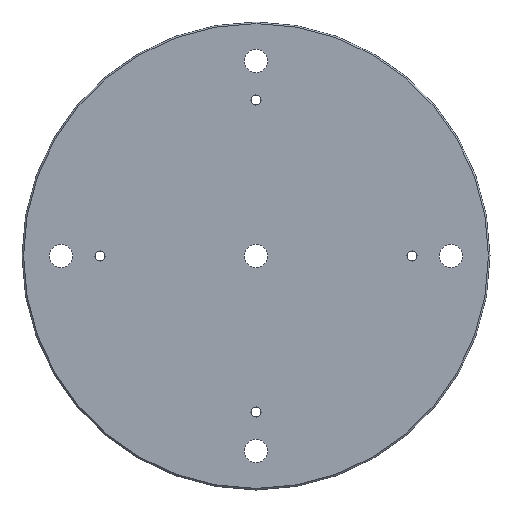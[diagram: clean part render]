
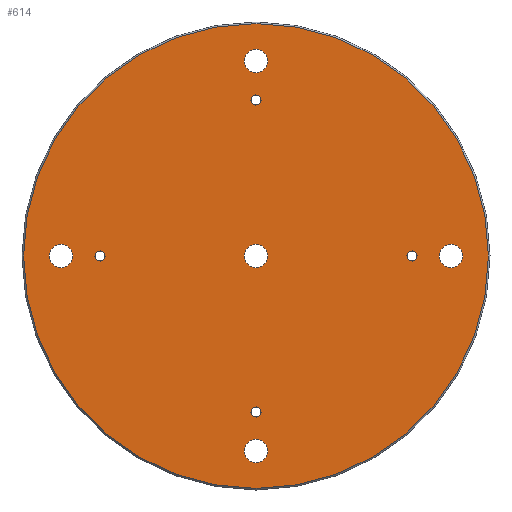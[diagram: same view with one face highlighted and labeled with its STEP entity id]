
A CAD part, front view. The second image highlights one B-rep face of the part: STEP entity #614.
In plain terms, the highlighted planar face has unit normal (0, -1, 0).
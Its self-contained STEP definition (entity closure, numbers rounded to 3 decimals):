
#1=CARTESIAN_POINT('',(0.,-25.,-250.));
#2=DIRECTION('',(0.,-1.,0.));
#3=DIRECTION('',(1.,0.,0.));
#4=AXIS2_PLACEMENT_3D('',#1,#2,#3);
#6=CARTESIAN_POINT('',(0.,-25.,-250.));
#7=DIRECTION('',(0.,-1.,0.));
#8=DIRECTION('',(-1.,0.,0.));
#9=AXIS2_PLACEMENT_3D('',#6,#7,#8);
#11=CARTESIAN_POINT('',(-250.,-25.,0.));
#12=DIRECTION('',(0.,-1.,0.));
#13=DIRECTION('',(0.,0.,-1.));
#14=AXIS2_PLACEMENT_3D('',#11,#12,#13);
#16=CARTESIAN_POINT('',(-250.,-25.,0.));
#17=DIRECTION('',(0.,-1.,0.));
#18=DIRECTION('',(0.,0.,1.));
#19=AXIS2_PLACEMENT_3D('',#16,#17,#18);
#21=CARTESIAN_POINT('',(0.,-25.,250.));
#22=DIRECTION('',(0.,-1.,0.));
#23=DIRECTION('',(-1.,0.,0.));
#24=AXIS2_PLACEMENT_3D('',#21,#22,#23);
#26=CARTESIAN_POINT('',(0.,-25.,250.));
#27=DIRECTION('',(0.,-1.,0.));
#28=DIRECTION('',(1.,0.,0.));
#29=AXIS2_PLACEMENT_3D('',#26,#27,#28);
#31=CARTESIAN_POINT('',(250.,-25.,0.));
#32=DIRECTION('',(0.,-1.,0.));
#33=DIRECTION('',(0.,0.,1.));
#34=AXIS2_PLACEMENT_3D('',#31,#32,#33);
#36=CARTESIAN_POINT('',(250.,-25.,0.));
#37=DIRECTION('',(0.,-1.,0.));
#38=DIRECTION('',(0.,0.,-1.));
#39=AXIS2_PLACEMENT_3D('',#36,#37,#38);
#41=CARTESIAN_POINT('',(0.,-25.,0.));
#42=DIRECTION('',(0.,-1.,0.));
#43=DIRECTION('',(1.,0.,0.));
#44=AXIS2_PLACEMENT_3D('',#41,#42,#43);
#46=CARTESIAN_POINT('',(0.,-25.,0.));
#47=DIRECTION('',(0.,-1.,0.));
#48=DIRECTION('',(-1.,0.,0.));
#49=AXIS2_PLACEMENT_3D('',#46,#47,#48);
#51=CARTESIAN_POINT('',(0.,-25.,0.));
#52=DIRECTION('',(0.,-1.,0.));
#53=DIRECTION('',(1.,0.,0.));
#54=AXIS2_PLACEMENT_3D('',#51,#52,#53);
#56=CARTESIAN_POINT('',(0.,-25.,0.));
#57=DIRECTION('',(0.,-1.,0.));
#58=DIRECTION('',(-1.,0.,0.));
#59=AXIS2_PLACEMENT_3D('',#56,#57,#58);
#61=CARTESIAN_POINT('',(0.,-25.,-200.));
#62=DIRECTION('',(0.,1.,0.));
#63=DIRECTION('',(1.,0.,0.));
#64=AXIS2_PLACEMENT_3D('',#61,#62,#63);
#66=CARTESIAN_POINT('',(0.,-25.,-200.));
#67=DIRECTION('',(0.,1.,0.));
#68=DIRECTION('',(-1.,0.,0.));
#69=AXIS2_PLACEMENT_3D('',#66,#67,#68);
#71=CARTESIAN_POINT('',(-200.,-25.,0.));
#72=DIRECTION('',(0.,1.,0.));
#73=DIRECTION('',(0.,0.,-1.));
#74=AXIS2_PLACEMENT_3D('',#71,#72,#73);
#76=CARTESIAN_POINT('',(-200.,-25.,0.));
#77=DIRECTION('',(0.,1.,0.));
#78=DIRECTION('',(0.,0.,1.));
#79=AXIS2_PLACEMENT_3D('',#76,#77,#78);
#81=CARTESIAN_POINT('',(0.,-25.,200.));
#82=DIRECTION('',(0.,1.,0.));
#83=DIRECTION('',(-1.,0.,0.));
#84=AXIS2_PLACEMENT_3D('',#81,#82,#83);
#86=CARTESIAN_POINT('',(0.,-25.,200.));
#87=DIRECTION('',(0.,1.,0.));
#88=DIRECTION('',(1.,0.,0.));
#89=AXIS2_PLACEMENT_3D('',#86,#87,#88);
#91=CARTESIAN_POINT('',(200.,-25.,0.));
#92=DIRECTION('',(0.,1.,0.));
#93=DIRECTION('',(0.,0.,1.));
#94=AXIS2_PLACEMENT_3D('',#91,#92,#93);
#96=CARTESIAN_POINT('',(200.,-25.,0.));
#97=DIRECTION('',(0.,1.,0.));
#98=DIRECTION('',(0.,0.,-1.));
#99=AXIS2_PLACEMENT_3D('',#96,#97,#98);
#429=CARTESIAN_POINT('',(15.,-25.,-250.));
#430=CARTESIAN_POINT('',(-15.,-25.,-250.));
#431=VERTEX_POINT('',#429);
#432=VERTEX_POINT('',#430);
#437=CARTESIAN_POINT('',(-250.,-25.,-15.));
#438=CARTESIAN_POINT('',(-250.,-25.,15.));
#439=VERTEX_POINT('',#437);
#440=VERTEX_POINT('',#438);
#445=CARTESIAN_POINT('',(-15.,-25.,250.));
#446=CARTESIAN_POINT('',(15.,-25.,250.));
#447=VERTEX_POINT('',#445);
#448=VERTEX_POINT('',#446);
#453=CARTESIAN_POINT('',(250.,-25.,15.));
#454=CARTESIAN_POINT('',(250.,-25.,-15.));
#455=VERTEX_POINT('',#453);
#456=VERTEX_POINT('',#454);
#461=CARTESIAN_POINT('',(15.,-25.,0.));
#462=CARTESIAN_POINT('',(-15.,-25.,0.));
#463=VERTEX_POINT('',#461);
#464=VERTEX_POINT('',#462);
#477=CARTESIAN_POINT('',(298.,-25.,0.));
#478=CARTESIAN_POINT('',(-298.,-25.,0.));
#479=VERTEX_POINT('',#477);
#480=VERTEX_POINT('',#478);
#493=CARTESIAN_POINT('',(6.5,-25.,-200.));
#494=CARTESIAN_POINT('',(-6.5,-25.,-200.));
#495=VERTEX_POINT('',#493);
#496=VERTEX_POINT('',#494);
#509=CARTESIAN_POINT('',(-200.,-25.,-6.5));
#510=CARTESIAN_POINT('',(-200.,-25.,6.5));
#511=VERTEX_POINT('',#509);
#512=VERTEX_POINT('',#510);
#525=CARTESIAN_POINT('',(-6.5,-25.,200.));
#526=CARTESIAN_POINT('',(6.5,-25.,200.));
#527=VERTEX_POINT('',#525);
#528=VERTEX_POINT('',#526);
#541=CARTESIAN_POINT('',(200.,-25.,6.5));
#542=CARTESIAN_POINT('',(200.,-25.,-6.5));
#543=VERTEX_POINT('',#541);
#544=VERTEX_POINT('',#542);
#549=CARTESIAN_POINT('',(0.,-25.,0.));
#550=DIRECTION('',(0.,1.,0.));
#551=DIRECTION('',(1.,0.,0.));
#552=AXIS2_PLACEMENT_3D('',#549,#550,#551);
#553=PLANE('',#552);
#555=ORIENTED_EDGE('',*,*,#554,.F.);
#557=ORIENTED_EDGE('',*,*,#556,.F.);
#558=EDGE_LOOP('',(#555,#557));
#559=FACE_OUTER_BOUND('',#558,.F.);
#561=ORIENTED_EDGE('',*,*,#560,.T.);
#563=ORIENTED_EDGE('',*,*,#562,.T.);
#564=EDGE_LOOP('',(#561,#563));
#565=FACE_BOUND('',#564,.F.);
#567=ORIENTED_EDGE('',*,*,#566,.T.);
#569=ORIENTED_EDGE('',*,*,#568,.T.);
#570=EDGE_LOOP('',(#567,#569));
#571=FACE_BOUND('',#570,.F.);
#573=ORIENTED_EDGE('',*,*,#572,.T.);
#575=ORIENTED_EDGE('',*,*,#574,.T.);
#576=EDGE_LOOP('',(#573,#575));
#577=FACE_BOUND('',#576,.F.);
#579=ORIENTED_EDGE('',*,*,#578,.T.);
#581=ORIENTED_EDGE('',*,*,#580,.T.);
#582=EDGE_LOOP('',(#579,#581));
#583=FACE_BOUND('',#582,.F.);
#585=ORIENTED_EDGE('',*,*,#584,.T.);
#587=ORIENTED_EDGE('',*,*,#586,.T.);
#588=EDGE_LOOP('',(#585,#587));
#589=FACE_BOUND('',#588,.F.);
#591=ORIENTED_EDGE('',*,*,#590,.F.);
#593=ORIENTED_EDGE('',*,*,#592,.F.);
#594=EDGE_LOOP('',(#591,#593));
#595=FACE_BOUND('',#594,.F.);
#597=ORIENTED_EDGE('',*,*,#596,.F.);
#599=ORIENTED_EDGE('',*,*,#598,.F.);
#600=EDGE_LOOP('',(#597,#599));
#601=FACE_BOUND('',#600,.F.);
#603=ORIENTED_EDGE('',*,*,#602,.F.);
#605=ORIENTED_EDGE('',*,*,#604,.F.);
#606=EDGE_LOOP('',(#603,#605));
#607=FACE_BOUND('',#606,.F.);
#609=ORIENTED_EDGE('',*,*,#608,.F.);
#611=ORIENTED_EDGE('',*,*,#610,.F.);
#612=EDGE_LOOP('',(#609,#611));
#613=FACE_BOUND('',#612,.F.);
#614=ADVANCED_FACE('',(#559,#565,#571,#577,#583,#589,#595,#601,#607,#613),#553,
.F.);
#5=CIRCLE('',#4,15.);
#10=CIRCLE('',#9,15.);
#15=CIRCLE('',#14,15.);
#20=CIRCLE('',#19,15.);
#25=CIRCLE('',#24,15.);
#30=CIRCLE('',#29,15.);
#35=CIRCLE('',#34,15.);
#40=CIRCLE('',#39,15.);
#45=CIRCLE('',#44,15.);
#50=CIRCLE('',#49,15.);
#55=CIRCLE('',#54,298.);
#60=CIRCLE('',#59,298.);
#65=CIRCLE('',#64,6.5);
#70=CIRCLE('',#69,6.5);
#75=CIRCLE('',#74,6.5);
#80=CIRCLE('',#79,6.5);
#85=CIRCLE('',#84,6.5);
#90=CIRCLE('',#89,6.5);
#95=CIRCLE('',#94,6.5);
#100=CIRCLE('',#99,6.5);
#554=EDGE_CURVE('',#479,#480,#55,.T.);
#556=EDGE_CURVE('',#480,#479,#60,.T.);
#560=EDGE_CURVE('',#439,#440,#15,.T.);
#562=EDGE_CURVE('',#440,#439,#20,.T.);
#566=EDGE_CURVE('',#447,#448,#25,.T.);
#568=EDGE_CURVE('',#448,#447,#30,.T.);
#572=EDGE_CURVE('',#455,#456,#35,.T.);
#574=EDGE_CURVE('',#456,#455,#40,.T.);
#578=EDGE_CURVE('',#463,#464,#45,.T.);
#580=EDGE_CURVE('',#464,#463,#50,.T.);
#584=EDGE_CURVE('',#431,#432,#5,.T.);
#586=EDGE_CURVE('',#432,#431,#10,.T.);
#590=EDGE_CURVE('',#495,#496,#65,.T.);
#592=EDGE_CURVE('',#496,#495,#70,.T.);
#596=EDGE_CURVE('',#511,#512,#75,.T.);
#598=EDGE_CURVE('',#512,#511,#80,.T.);
#602=EDGE_CURVE('',#527,#528,#85,.T.);
#604=EDGE_CURVE('',#528,#527,#90,.T.);
#608=EDGE_CURVE('',#543,#544,#95,.T.);
#610=EDGE_CURVE('',#544,#543,#100,.T.);
